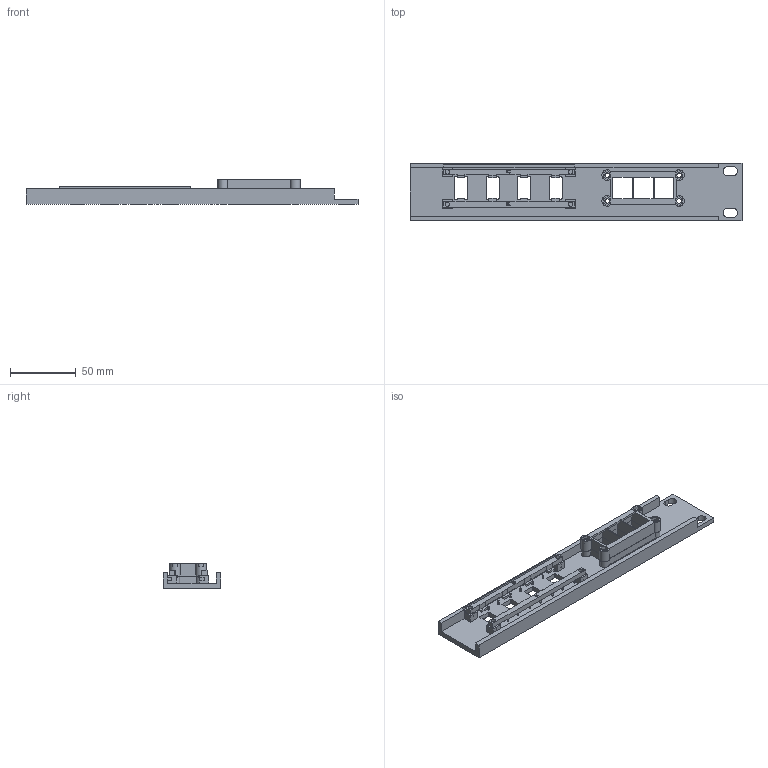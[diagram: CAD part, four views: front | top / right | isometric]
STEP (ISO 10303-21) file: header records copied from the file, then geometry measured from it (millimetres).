
FILE_DESCRIPTION(('Open CASCADE Model'),'2;1');
FILE_NAME('Open CASCADE Shape Model','2026-10-07T10:51:43',('Author'),( 'Open CASCADE'),'Open CASCADE STEP processor 7.8','Open CASCADE 7.8' ,'Unknown');
FILE_SCHEMA(('AUTOMOTIVE_DESIGN { 1 0 10303 214 1 1 1 1 }'));
Length unit declared in the file: millimetre
Products named in the file (5): FULL_PANEL_WITH_B; 00_Full_Panel_Centered; 01_Keystone_Rear_Unchanged; B_USB_Lower; B_USB_Upper
Assembly tree (4 placements, depth 2):
  FULL_PANEL_WITH_B
    00_Full_Panel_Centered
    01_Keystone_Rear_Unchanged
    B_USB_Lower
    B_USB_Upper
Bounding box: 252.93 x 44 x 19 mm (x, y, z)
Volume: 60664.5 mm3; surface area: 44710.7 mm2
Topology: 4 solids, 4 shells, 728 faces, 1983 edges, 1322 vertices
Faces by surface type: plane 503, extrusion 157, cylinder 68
Full cylindrical faces by diameter (mm): 3.4 x20
Entity records: 51160 total; most frequent: CARTESIAN_POINT 12559, DIRECTION 6416, VECTOR 4877, LINE 4720, ORIENTED_EDGE 3966, PCURVE 3966, DEFINITIONAL_REPRESENTATION 3966, EDGE_CURVE 1983
